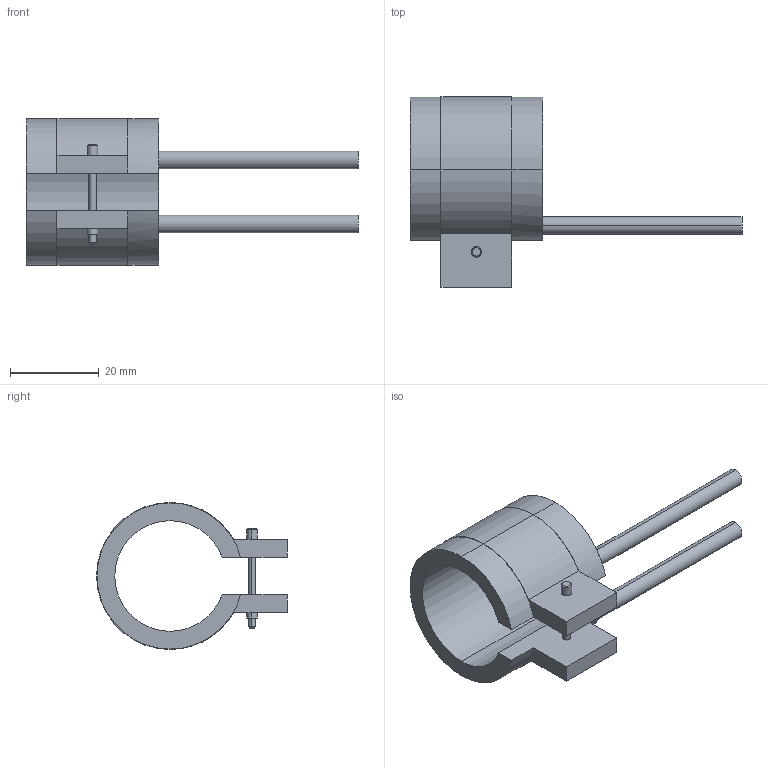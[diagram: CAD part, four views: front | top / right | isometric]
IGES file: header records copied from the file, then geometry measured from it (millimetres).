
Start section: START RECORD GO HERE.
Global section: file name: 14025030.igs; native system: DASSAULT SYSTEMES CATIA V5 R20 - www.3ds.com; preprocessor: CATIA Version 5 Release 20 ; author: Utente; organization: NB04-ASUS; date: 20210331.134246; units: millimetre
Bounding box: 75 x 43.1 x 33.2 mm (x, y, z)
Surface area: 7990.3 mm2 (no closed solid volume)
Topology: 0 solids, 0 shells, 45 faces, 232 edges, 232 vertices
Faces by surface type: revolution 28, plane 17
